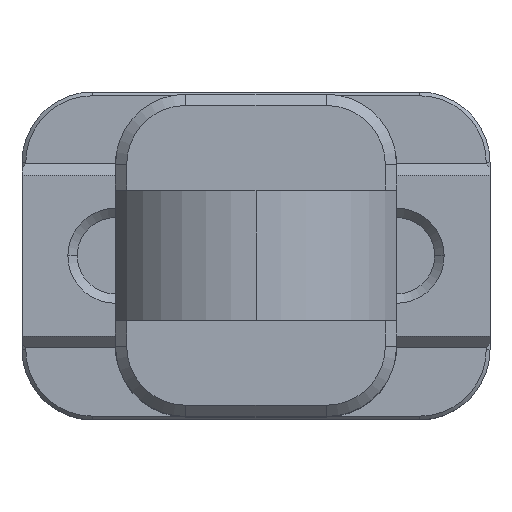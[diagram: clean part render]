
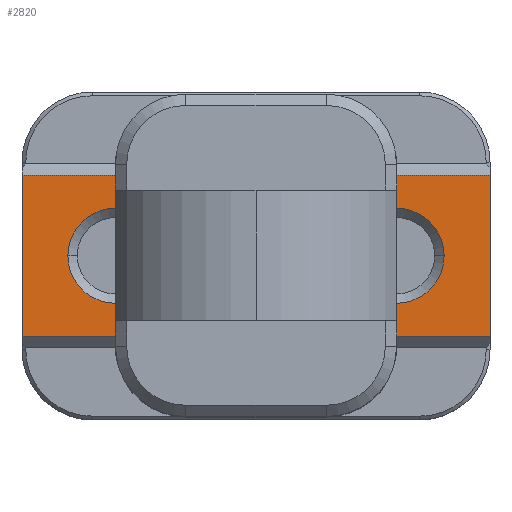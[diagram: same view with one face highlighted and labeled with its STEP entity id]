
A CAD part, top view. The second image highlights one B-rep face of the part: STEP entity #2820.
In plain terms, the highlighted planar face has unit normal (0, 0, 1).
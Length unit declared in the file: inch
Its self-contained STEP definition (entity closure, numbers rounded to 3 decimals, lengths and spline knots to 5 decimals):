
#5 = VECTOR ( 'NONE', #3338, 39.37008 ) ;
#7 = AXIS2_PLACEMENT_3D ( 'NONE', #3335, #3336, #3337 ) ;
#9 = CIRCLE ( 'NONE', #26, 0.127 ) ;
#21 = CIRCLE ( 'NONE', #7, 0.127 ) ;
#22 = VECTOR ( 'NONE', #3341, 39.37008 ) ;
#26 = AXIS2_PLACEMENT_3D ( 'NONE', #3330, #3331, #3332 ) ;
#49 = VECTOR ( 'NONE', #3285, 39.37008 ) ;
#186 = ORIENTED_EDGE ( 'NONE', *, *, #2115, .F. ) ;
#188 = ORIENTED_EDGE ( 'NONE', *, *, #2208, .F. ) ;
#190 = ORIENTED_EDGE ( 'NONE', *, *, #2116, .F. ) ;
#192 = ORIENTED_EDGE ( 'NONE', *, *, #2890, .F. ) ;
#194 = ORIENTED_EDGE ( 'NONE', *, *, #2099, .T. ) ;
#196 = ORIENTED_EDGE ( 'NONE', *, *, #2117, .T. ) ;
#198 = ORIENTED_EDGE ( 'NONE', *, *, #2244, .T. ) ;
#200 = ORIENTED_EDGE ( 'NONE', *, *, #2118, .T. ) ;
#420 = DIRECTION ( 'NONE',  ( 0., 0., -1. ) ) ;
#425 = FACE_BOUND ( 'NONE', #2430, .T. ) ;
#428 = CARTESIAN_POINT ( 'NONE',  ( -0.6245, 0.4375, 0.478 ) ) ;
#429 = FACE_BOUND ( 'NONE', #2431, .T. ) ;
#431 = FACE_OUTER_BOUND ( 'NONE', #2429, .T. ) ;
#432 = PLANE ( 'NONE',  #4912 ) ;
#434 = DIRECTION ( 'NONE',  ( -1., 0., 0. ) ) ;
#704 = VERTEX_POINT ( 'NONE', #3138 ) ;
#705 = VERTEX_POINT ( 'NONE', #3139 ) ;
#708 = VERTEX_POINT ( 'NONE', #3142 ) ;
#731 = VERTEX_POINT ( 'NONE', #3158 ) ;
#733 = VERTEX_POINT ( 'NONE', #3164 ) ;
#898 = VERTEX_POINT ( 'NONE', #3274 ) ;
#899 = VERTEX_POINT ( 'NONE', #3275 ) ;
#900 = VERTEX_POINT ( 'NONE', #3276 ) ;
#1135 = CARTESIAN_POINT ( 'NONE',  ( -0.375, 0., 0.478 ) ) ;
#1136 = DIRECTION ( 'NONE',  ( 0., 0., 1. ) ) ;
#1137 = DIRECTION ( 'NONE',  ( 1., 0., 0. ) ) ;
#2099 = EDGE_CURVE ( 'NONE', #731, #733, #3281, .T. ) ;
#2115 = EDGE_CURVE ( 'NONE', #899, #898, #9, .T. ) ;
#2116 = EDGE_CURVE ( 'NONE', #705, #704, #21, .T. ) ;
#2117 = EDGE_CURVE ( 'NONE', #733, #708, #3334, .T. ) ;
#2118 = EDGE_CURVE ( 'NONE', #900, #731, #3339, .T. ) ;
#2208 = EDGE_CURVE ( 'NONE', #898, #899, #3580, .T. ) ;
#2244 = EDGE_CURVE ( 'NONE', #708, #900, #3874, .T. ) ;
#2429 = EDGE_LOOP ( 'NONE', ( #194, #196, #198, #200 ) ) ;
#2430 = EDGE_LOOP ( 'NONE', ( #190, #192 ) ) ;
#2431 = EDGE_LOOP ( 'NONE', ( #186, #188 ) ) ;
#2820 = ADVANCED_FACE ( 'NONE', ( #429, #425, #431 ), #432, .F. ) ;
#2890 = EDGE_CURVE ( 'NONE', #704, #705, #5051, .T. ) ;
#3138 = CARTESIAN_POINT ( 'NONE',  ( -0.502, 0., 0.478 ) ) ;
#3139 = CARTESIAN_POINT ( 'NONE',  ( -0.248, 0., 0.478 ) ) ;
#3142 = CARTESIAN_POINT ( 'NONE',  ( -0.6245, 0.215, 0.478 ) ) ;
#3158 = CARTESIAN_POINT ( 'NONE',  ( 0.6245, -0.215, 0.478 ) ) ;
#3164 = CARTESIAN_POINT ( 'NONE',  ( 0.6245, 0.215, 0.478 ) ) ;
#3274 = CARTESIAN_POINT ( 'NONE',  ( 0.248, 0., 0.478 ) ) ;
#3275 = CARTESIAN_POINT ( 'NONE',  ( 0.502, 0., 0.478 ) ) ;
#3276 = CARTESIAN_POINT ( 'NONE',  ( -0.6245, -0.215, 0.478 ) ) ;
#3280 = CARTESIAN_POINT ( 'NONE',  ( 0.6245, -0.4375, 0.478 ) ) ;
#3281 = LINE ( 'NONE', #3280, #49 ) ;
#3285 = DIRECTION ( 'NONE',  ( 0., 1., 0. ) ) ;
#3329 = CARTESIAN_POINT ( 'NONE',  ( -0.6145, 0.215, 0.478 ) ) ;
#3330 = CARTESIAN_POINT ( 'NONE',  ( 0.375, 0., 0.478 ) ) ;
#3331 = DIRECTION ( 'NONE',  ( 0., 0., 1. ) ) ;
#3332 = DIRECTION ( 'NONE',  ( 1., 0., 0. ) ) ;
#3334 = LINE ( 'NONE', #3329, #5 ) ;
#3335 = CARTESIAN_POINT ( 'NONE',  ( -0.375, 0., 0.478 ) ) ;
#3336 = DIRECTION ( 'NONE',  ( 0., 0., 1. ) ) ;
#3337 = DIRECTION ( 'NONE',  ( 1., 0., 0. ) ) ;
#3338 = DIRECTION ( 'NONE',  ( -1., 0., 0. ) ) ;
#3339 = LINE ( 'NONE', #3340, #22 ) ;
#3340 = CARTESIAN_POINT ( 'NONE',  ( 0.6145, -0.215, 0.478 ) ) ;
#3341 = DIRECTION ( 'NONE',  ( 1., 0., 0. ) ) ;
#3580 = CIRCLE ( 'NONE', #3584, 0.127 ) ;
#3584 = AXIS2_PLACEMENT_3D ( 'NONE', #3754, #3755, #3756 ) ;
#3622 = VECTOR ( 'NONE', #3876, 39.37008 ) ;
#3754 = CARTESIAN_POINT ( 'NONE',  ( 0.375, 0., 0.478 ) ) ;
#3755 = DIRECTION ( 'NONE',  ( 0., 0., 1. ) ) ;
#3756 = DIRECTION ( 'NONE',  ( 1., 0., 0. ) ) ;
#3874 = LINE ( 'NONE', #3875, #3622 ) ;
#3875 = CARTESIAN_POINT ( 'NONE',  ( -0.6245, -0.4375, 0.478 ) ) ;
#3876 = DIRECTION ( 'NONE',  ( 0., -1., 0. ) ) ;
#4912 = AXIS2_PLACEMENT_3D ( 'NONE', #428, #420, #434 ) ;
#5051 = CIRCLE ( 'NONE', #5052, 0.127 ) ;
#5052 = AXIS2_PLACEMENT_3D ( 'NONE', #1135, #1136, #1137 ) ;
